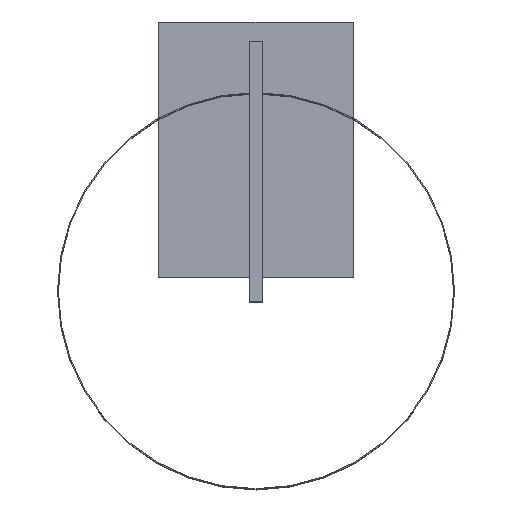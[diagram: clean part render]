
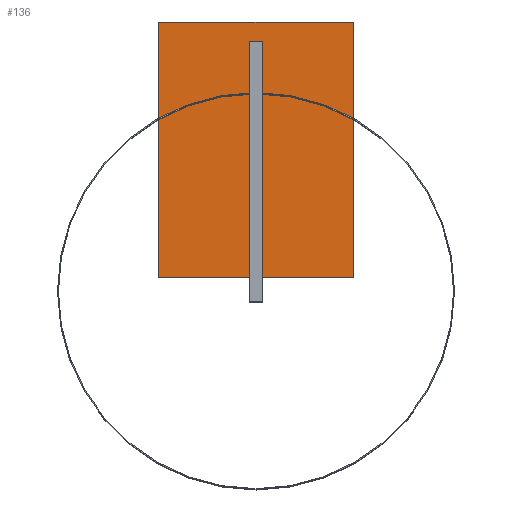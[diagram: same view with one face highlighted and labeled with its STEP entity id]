
A CAD part, top view. The second image highlights one B-rep face of the part: STEP entity #136.
In plain terms, the highlighted planar face has unit normal (0, 0, 1).
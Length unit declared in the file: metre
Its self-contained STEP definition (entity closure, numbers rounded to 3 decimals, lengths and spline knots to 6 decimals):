
#136 = ADVANCED_FACE( '', ( #173, #174 ), #175, .T. );
#173 = FACE_BOUND( '', #216, .T. );
#174 = FACE_OUTER_BOUND( '', #217, .T. );
#175 = PLANE( '', #218 );
#216 = EDGE_LOOP( '', ( #316, #317, #318, #319 ) );
#217 = EDGE_LOOP( '', ( #320, #321, #322, #323 ) );
#218 = AXIS2_PLACEMENT_3D( '', #324, #325, #326 );
#316 = ORIENTED_EDGE( '', *, *, #398, .F. );
#317 = ORIENTED_EDGE( '', *, *, #399, .F. );
#318 = ORIENTED_EDGE( '', *, *, #379, .F. );
#319 = ORIENTED_EDGE( '', *, *, #373, .F. );
#320 = ORIENTED_EDGE( '', *, *, #376, .T. );
#321 = ORIENTED_EDGE( '', *, *, #392, .T. );
#322 = ORIENTED_EDGE( '', *, *, #396, .T. );
#323 = ORIENTED_EDGE( '', *, *, #397, .T. );
#324 = CARTESIAN_POINT( '', ( -0.11, -0.145, 0.006 ) );
#325 = DIRECTION( '', ( 0., 0., 1. ) );
#326 = DIRECTION( '', ( 1., 0., 0. ) );
#373 = EDGE_CURVE( '', #419, #415, #421, .T. );
#376 = EDGE_CURVE( '', #427, #425, #428, .T. );
#379 = EDGE_CURVE( '', #415, #432, #433, .T. );
#392 = EDGE_CURVE( '', #425, #453, #455, .T. );
#396 = EDGE_CURVE( '', #453, #459, #461, .T. );
#397 = EDGE_CURVE( '', #459, #427, #462, .T. );
#398 = EDGE_CURVE( '', #463, #419, #464, .T. );
#399 = EDGE_CURVE( '', #432, #463, #465, .T. );
#415 = VERTEX_POINT( '', #483 );
#419 = VERTEX_POINT( '', #489 );
#421 = LINE( '', #492, #493 );
#425 = VERTEX_POINT( '', #498 );
#427 = VERTEX_POINT( '', #501 );
#428 = LINE( '', #502, #503 );
#432 = VERTEX_POINT( '', #509 );
#433 = LINE( '', #510, #511 );
#453 = VERTEX_POINT( '', #542 );
#455 = LINE( '', #545, #546 );
#459 = VERTEX_POINT( '', #552 );
#461 = LINE( '', #555, #556 );
#462 = LINE( '', #557, #558 );
#463 = VERTEX_POINT( '', #559 );
#464 = LINE( '', #560, #561 );
#465 = LINE( '', #562, #563 );
#483 = CARTESIAN_POINT( '', ( 0.0075, 0.095, 0.006 ) );
#489 = CARTESIAN_POINT( '', ( -0.0075, 0.095, 0.006 ) );
#492 = CARTESIAN_POINT( '', ( -0.11, 0.095, 0.006 ) );
#493 = VECTOR( '', #593, 1. );
#498 = CARTESIAN_POINT( '', ( -0.11, -0.145, 0.006 ) );
#501 = CARTESIAN_POINT( '', ( -0.11, 0.145, 0.006 ) );
#502 = CARTESIAN_POINT( '', ( -0.11, 0.145, 0.006 ) );
#503 = VECTOR( '', #596, 1. );
#509 = CARTESIAN_POINT( '', ( 0.0075, 0.12, 0.006 ) );
#510 = CARTESIAN_POINT( '', ( 0.0075, -0.145, 0.006 ) );
#511 = VECTOR( '', #599, 1. );
#542 = CARTESIAN_POINT( '', ( 0.11, -0.145, 0.006 ) );
#545 = CARTESIAN_POINT( '', ( -0.11, -0.145, 0.006 ) );
#546 = VECTOR( '', #612, 1. );
#552 = CARTESIAN_POINT( '', ( 0.11, 0.145, 0.006 ) );
#555 = CARTESIAN_POINT( '', ( 0.11, -0.145, 0.006 ) );
#556 = VECTOR( '', #616, 1. );
#557 = CARTESIAN_POINT( '', ( 0.11, 0.145, 0.006 ) );
#558 = VECTOR( '', #617, 1. );
#559 = CARTESIAN_POINT( '', ( -0.0075, 0.12, 0.006 ) );
#560 = CARTESIAN_POINT( '', ( -0.0075, -0.145, 0.006 ) );
#561 = VECTOR( '', #618, 1. );
#562 = CARTESIAN_POINT( '', ( -0.11, 0.12, 0.006 ) );
#563 = VECTOR( '', #619, 1. );
#593 = DIRECTION( '', ( 1., 0., 0. ) );
#596 = DIRECTION( '', ( 0., -1., 0. ) );
#599 = DIRECTION( '', ( 0., 1., 0. ) );
#612 = DIRECTION( '', ( 1., 0., 0. ) );
#616 = DIRECTION( '', ( 0., 1., 0. ) );
#617 = DIRECTION( '', ( -1., 0., 0. ) );
#618 = DIRECTION( '', ( 0., -1., 0. ) );
#619 = DIRECTION( '', ( -1., 0., 0. ) );
